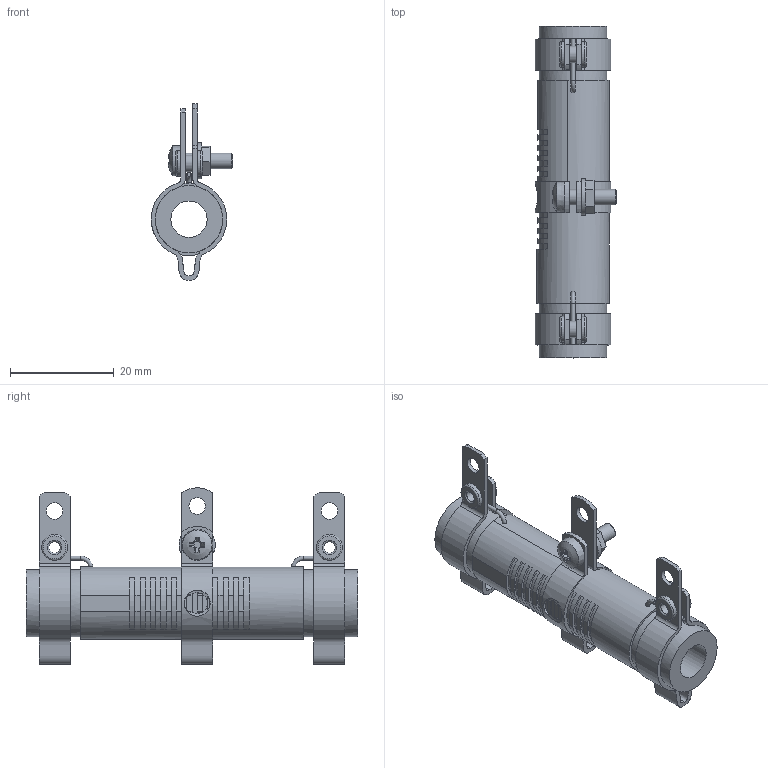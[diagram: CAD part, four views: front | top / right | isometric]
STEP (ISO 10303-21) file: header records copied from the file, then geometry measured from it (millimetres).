
FILE_DESCRIPTION(/* description */ (''),/* implementation_level */ '2;1');
FILE_NAME(/* name */ 'C:\_Vault\Dati\CATALOGO\RC-RS\RCR-RSR TC\RSR TC 25.stp',/* time_stamp */ '2014-03-20T11:20:25+01:00',/* author */ ('stefano'),/* organization */ (''),/* preprocessor_version */ 'ST-DEVELOPER v15.2',/* originating_system */ 'Autodesk Inventor 2014',/* authorisation */ '');
FILE_SCHEMA (('AUTOMOTIVE_DESIGN { 1 0 10303 214 3 1 1 }'));
Length unit declared in the file: millimetre
Products named in the file (1): RSR TC 25
Bounding box: 15.75 x 64 x 34.03 mm (x, y, z)
Volume: 7982.2 mm3; surface area: 6550.1 mm2
Topology: 1 solids, 5 shells, 243 faces, 646 edges, 425 vertices
Faces by surface type: plane 128, cylinder 73, cone 18, bspline 12, torus 11, sphere 1
Full cylindrical faces by diameter (mm): 0.4 x2, 0.8 x4, 2.2 x2, 2.75 x1, 3 x1, 3.2 x7, 4.134 x1, 5 x4, 7 x2, 13 x2, 14 x1
Entity records: 8213 total; most frequent: CARTESIAN_POINT 2066, DIRECTION 1220, ORIENTED_EDGE 1168, EDGE_CURVE 584, AXIS2_PLACEMENT_3D 473, VERTEX_POINT 409, EDGE_LOOP 327, LINE 274
